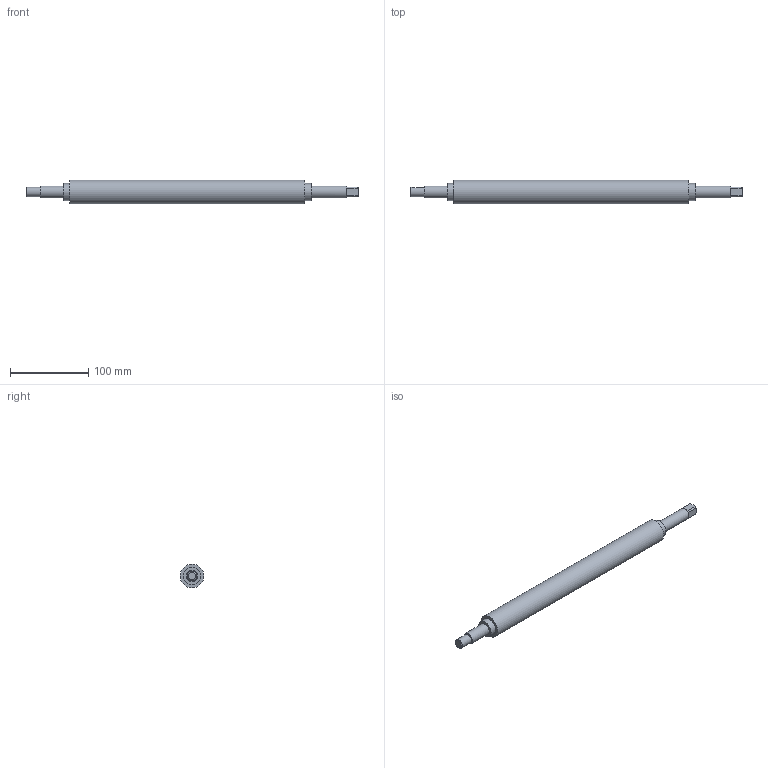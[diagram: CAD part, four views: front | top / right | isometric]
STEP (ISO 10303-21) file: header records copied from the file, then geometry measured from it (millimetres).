
FILE_DESCRIPTION(/* description */ ('ROLLER C'),/* implementation_level */ '2;1');
FILE_NAME(/* name */ 'C:\Users\Apardo\Documents\Proyectos\Dietrich\Proyecto 1\PLATE ROLLING MACHINE\STEP\1.11 rollerC.stp',/* time_stamp */ '2020-11-03T20:35:33-04:00',/* author */ ('Apardo'),/* organization */ ('15'),/* preprocessor_version */ 'ST-DEVELOPER v18',/* originating_system */ 'Autodesk Inventor 2020',/* authorisation */ 'D. JAEGER');
FILE_SCHEMA (('AUTOMOTIVE_DESIGN { 1 0 10303 214 3 1 1 }'));
Length unit declared in the file: millimetre
Products named in the file (1): rollerC
Bounding box: 424 x 30 x 30 mm (x, y, z)
Volume: 235368.5 mm3; surface area: 35716.7 mm2
Topology: 1 solids, 1 shells, 31 faces, 80 edges, 56 vertices
Faces by surface type: plane 18, cylinder 8, cone 5
Full cylindrical faces by diameter (mm): 12 x1, 15 x2, 22 x2, 30 x1
Entity records: 1038 total; most frequent: CARTESIAN_POINT 219, DIRECTION 171, ORIENTED_EDGE 160, EDGE_CURVE 80, AXIS2_PLACEMENT_3D 70, VERTEX_POINT 56, CIRCLE 38, EDGE_LOOP 36
